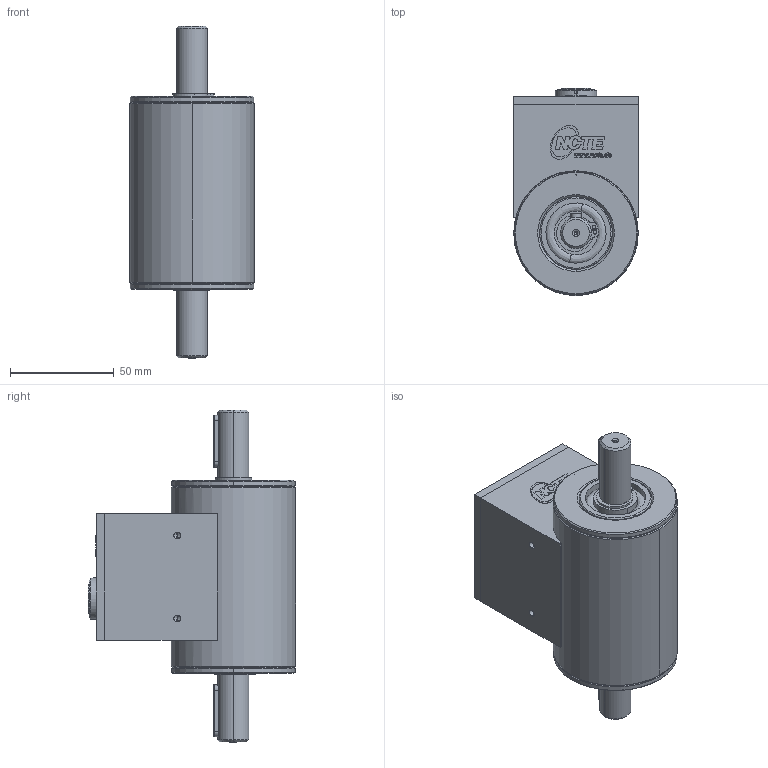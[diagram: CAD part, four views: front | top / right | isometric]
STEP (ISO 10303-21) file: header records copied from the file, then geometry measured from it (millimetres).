
FILE_DESCRIPTION (( 'STEP AP214' ), '1' );
FILE_NAME ('400007-ATS012_Sensor_Mb_50-100Nm_Rund_ohne_WS_IP65.STEP', '2016-11-28T15:49:24', ( '' ), ( '' ), 'SwSTEP 2.0', 'SolidWorks 2016', '' );
FILE_SCHEMA (( 'AUTOMOTIVE_DESIGN' ));
Length unit declared in the file: millimetre
Products named in the file (15): 400007-ATM009_Rohrgehaeuse_Mb_50-100Nm; Passfeder_Parallel key A5 x 5 x 25 DIN 6885; 999999-ATE072_Folientaster beleuchtet_Standard; 400007-ATM018_Deckel_Elektronikgehäuse_Mb_50-100Nm; 999999-ATE042_Buchse-09-0132-90-12_12Pol_Standard; 400007-ATS012_Sensor_Mb_50-100Nm_Rund_ohne_WS_IP65; DIN 7991 - M3 x 10 --- 10S_DIN 7991 - M3 x 10 --- 10S; Senkschraube mit Innensechskant DIN 7991_DIN 7991 - M4 x 10 --- 10S; Seegering DIN 471_Circlip DIN 471 - 15 x 1; 400007-ATM012_Lagerdeckel_Mb-50-100Nm; Kugellager DIN 625_DIN 625 - 6202 - 10,SI,NC,10_68; Passscheibe DIN 988_DIN 988-25x35x0.5; 999999-ATM001_Tellerfeder_k_vorgespannt34,6x22,4x0,5_Standard; 400007-ATM001_Welle15mm_Mb_50-100_Nm; 400007-ATM015_Elektronikgehaeuse_Mb_50-100Nm
Assembly tree (23 placements, depth 2):
  400007-ATS012_Sensor_Mb_50-100Nm_Rund_ohne_WS_IP65
    400007-ATM001_Welle15mm_Mb_50-100_Nm
    400007-ATM009_Rohrgehaeuse_Mb_50-100Nm
    400007-ATM012_Lagerdeckel_Mb-50-100Nm  x2
    400007-ATM015_Elektronikgehaeuse_Mb_50-100Nm
    Senkschraube mit Innensechskant DIN 7991_DIN 7991 - M4 x 10 --- 10S  x2
    DIN 7991 - M3 x 10 --- 10S_DIN 7991 - M3 x 10 --- 10S  x4
    999999-ATE072_Folientaster beleuchtet_Standard
    999999-ATE042_Buchse-09-0132-90-12_12Pol_Standard
    999999-ATM001_Tellerfeder_k_vorgespannt34,6x22,4x0,5_Standard
    Passscheibe DIN 988_DIN 988-25x35x0.5  x2
    Kugellager DIN 625_DIN 625 - 6202 - 10,SI,NC,10_68  x2
    Seegering DIN 471_Circlip DIN 471 - 15 x 1  x2
    400007-ATM018_Deckel_Elektronikgehäuse_Mb_50-100Nm
    Passfeder_Parallel key A5 x 5 x 25 DIN 6885  x2
Bounding box: 60 x 99.8 x 160 mm (x, y, z)
Surface area: 110479 mm2 (no closed solid volume)
Topology: 0 solids, 23 shells, 1526 faces, 3559 edges, 2122 vertices
Faces by surface type: cone 510, cylinder 490, plane 369, bspline 153, torus 4
Entity records: 31644 total; most frequent: CARTESIAN_POINT 8815, DIRECTION 4597, ORIENTED_EDGE 4574, EDGE_CURVE 2287, AXIS2_PLACEMENT_3D 1703, VERTEX_POINT 1433, VECTOR 1191, LINE 1191
